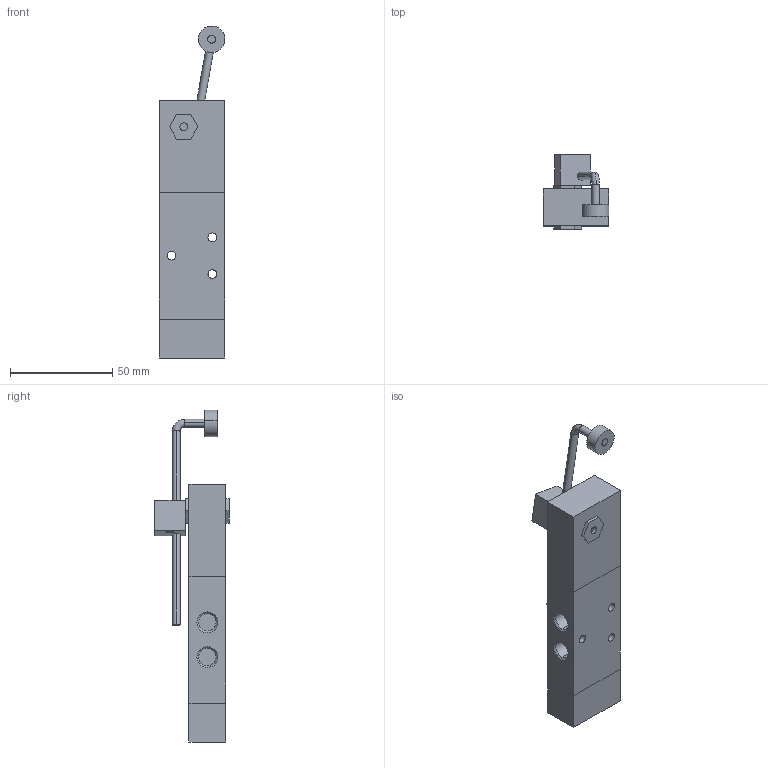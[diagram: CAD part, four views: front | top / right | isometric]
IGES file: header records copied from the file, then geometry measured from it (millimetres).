
Global section: file name: No Iges File Name specified; native system: AutoDesk Inventor R11.0; preprocessor: AutoDesk Inventor Iges Exporter R11.0; author: No Author specified; organization: No Organization specified; date: 20061219.114144; units: millimetre
Bounding box: 32.14 x 36.5 x 162.28 mm (x, y, z)
Volume: 74643.8 mm3; surface area: 19346.6 mm2
Topology: 3 solids, 3 shells, 104 faces, 238 edges, 152 vertices
Faces by surface type: plane 45, bspline 25, revolution 24, cylinder 8, torus 2
